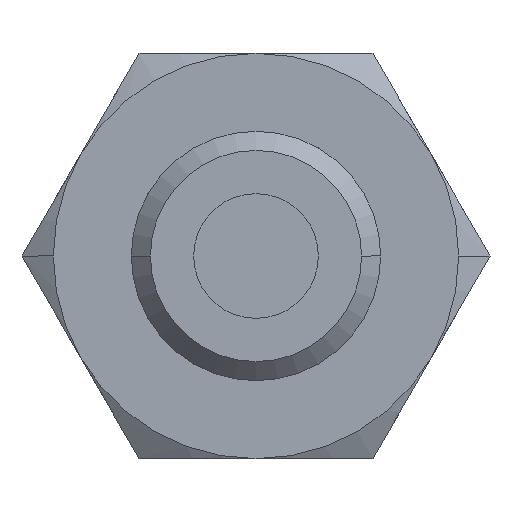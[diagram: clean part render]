
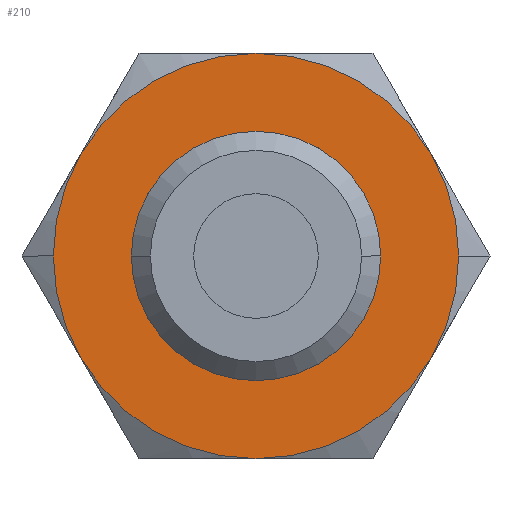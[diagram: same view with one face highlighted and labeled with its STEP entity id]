
A CAD part, left-side view. The second image highlights one B-rep face of the part: STEP entity #210.
In plain terms, the highlighted planar face has unit normal (-1, 0, 0).
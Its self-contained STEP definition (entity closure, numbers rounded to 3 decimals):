
#210 = ADVANCED_FACE( '', ( #322, #323 ), #324, .T. );
#322 = FACE_BOUND( '', #469, .T. );
#323 = FACE_OUTER_BOUND( '', #470, .T. );
#324 = PLANE( '', #471 );
#469 = EDGE_LOOP( '', ( #802, #803 ) );
#470 = EDGE_LOOP( '', ( #804, #805, #806, #807, #808, #809, #810, #811 ) );
#471 = AXIS2_PLACEMENT_3D( '', #812, #813, #814 );
#802 = ORIENTED_EDGE( '', *, *, #1075, .T. );
#803 = ORIENTED_EDGE( '', *, *, #1126, .T. );
#804 = ORIENTED_EDGE( '', *, *, #1118, .F. );
#805 = ORIENTED_EDGE( '', *, *, #1119, .F. );
#806 = ORIENTED_EDGE( '', *, *, #1114, .F. );
#807 = ORIENTED_EDGE( '', *, *, #1115, .F. );
#808 = ORIENTED_EDGE( '', *, *, #1087, .F. );
#809 = ORIENTED_EDGE( '', *, *, #1116, .F. );
#810 = ORIENTED_EDGE( '', *, *, #1117, .F. );
#811 = ORIENTED_EDGE( '', *, *, #1083, .F. );
#812 = CARTESIAN_POINT( '', ( 10., -3.25, 0. ) );
#813 = DIRECTION( '', ( -1., 0., 0. ) );
#814 = DIRECTION( '', ( 0., 1., 0. ) );
#1075 = EDGE_CURVE( '', #1239, #1241, #1243, .T. );
#1083 = EDGE_CURVE( '', #1256, #1259, #1260, .T. );
#1087 = EDGE_CURVE( '', #1265, #1263, #1267, .T. );
#1114 = EDGE_CURVE( '', #1301, #1292, #1310, .T. );
#1115 = EDGE_CURVE( '', #1263, #1301, #1311, .T. );
#1116 = EDGE_CURVE( '', #1269, #1265, #1312, .T. );
#1117 = EDGE_CURVE( '', #1259, #1269, #1313, .T. );
#1118 = EDGE_CURVE( '', #1280, #1256, #1314, .T. );
#1119 = EDGE_CURVE( '', #1292, #1280, #1315, .T. );
#1126 = EDGE_CURVE( '', #1241, #1239, #1322, .T. );
#1239 = VERTEX_POINT( '', #1483 );
#1241 = VERTEX_POINT( '', #1486 );
#1243 = CIRCLE( '', #1489, 4. );
#1256 = VERTEX_POINT( '', #1522 );
#1259 = VERTEX_POINT( '', #1526 );
#1260 = CIRCLE( '', #1527, 6.5 );
#1263 = VERTEX_POINT( '', #1539 );
#1265 = VERTEX_POINT( '', #1542 );
#1267 = CIRCLE( '', #1553, 6.5 );
#1269 = VERTEX_POINT( '', #1555 );
#1280 = VERTEX_POINT( '', #1604 );
#1292 = VERTEX_POINT( '', #1672 );
#1301 = VERTEX_POINT( '', #1718 );
#1310 = CIRCLE( '', #1782, 6.5 );
#1311 = CIRCLE( '', #1783, 6.5 );
#1312 = CIRCLE( '', #1784, 6.5 );
#1313 = CIRCLE( '', #1785, 6.5 );
#1314 = CIRCLE( '', #1786, 6.5 );
#1315 = CIRCLE( '', #1787, 6.5 );
#1322 = CIRCLE( '', #1794, 4. );
#1483 = CARTESIAN_POINT( '', ( 10., -4., 0. ) );
#1486 = CARTESIAN_POINT( '', ( 10., 4., 0. ) );
#1489 = AXIS2_PLACEMENT_3D( '', #2189, #2190, #2191 );
#1522 = CARTESIAN_POINT( '', ( 10., -6.5, 0. ) );
#1526 = CARTESIAN_POINT( '', ( 10., -5.629, -3.25 ) );
#1527 = AXIS2_PLACEMENT_3D( '', #2201, #2202, #2203 );
#1539 = CARTESIAN_POINT( '', ( 10., 6.5, 0. ) );
#1542 = CARTESIAN_POINT( '', ( 10., 5.629, -3.25 ) );
#1553 = AXIS2_PLACEMENT_3D( '', #2205, #2206, #2207 );
#1555 = CARTESIAN_POINT( '', ( 10., 0., -6.5 ) );
#1604 = CARTESIAN_POINT( '', ( 10., -5.629, 3.25 ) );
#1672 = CARTESIAN_POINT( '', ( 10., 0., 6.5 ) );
#1718 = CARTESIAN_POINT( '', ( 10., 5.629, 3.25 ) );
#1782 = AXIS2_PLACEMENT_3D( '', #2214, #2215, #2216 );
#1783 = AXIS2_PLACEMENT_3D( '', #2217, #2218, #2219 );
#1784 = AXIS2_PLACEMENT_3D( '', #2220, #2221, #2222 );
#1785 = AXIS2_PLACEMENT_3D( '', #2223, #2224, #2225 );
#1786 = AXIS2_PLACEMENT_3D( '', #2226, #2227, #2228 );
#1787 = AXIS2_PLACEMENT_3D( '', #2229, #2230, #2231 );
#1794 = AXIS2_PLACEMENT_3D( '', #2250, #2251, #2252 );
#2189 = CARTESIAN_POINT( '', ( 10., 0., 0. ) );
#2190 = DIRECTION( '', ( 1., 0., 0. ) );
#2191 = DIRECTION( '', ( 0., -1., 0. ) );
#2201 = CARTESIAN_POINT( '', ( 10., 0., 0. ) );
#2202 = DIRECTION( '', ( 1., 0., 0. ) );
#2203 = DIRECTION( '', ( 0., -1., 0. ) );
#2205 = CARTESIAN_POINT( '', ( 10., 0., 0. ) );
#2206 = DIRECTION( '', ( 1., 0., 0. ) );
#2207 = DIRECTION( '', ( 0., -1., 0. ) );
#2214 = CARTESIAN_POINT( '', ( 10., 0., 0. ) );
#2215 = DIRECTION( '', ( 1., 0., 0. ) );
#2216 = DIRECTION( '', ( 0., -1., 0. ) );
#2217 = CARTESIAN_POINT( '', ( 10., 0., 0. ) );
#2218 = DIRECTION( '', ( 1., 0., 0. ) );
#2219 = DIRECTION( '', ( 0., -1., 0. ) );
#2220 = CARTESIAN_POINT( '', ( 10., 0., 0. ) );
#2221 = DIRECTION( '', ( 1., 0., 0. ) );
#2222 = DIRECTION( '', ( 0., -1., 0. ) );
#2223 = CARTESIAN_POINT( '', ( 10., 0., 0. ) );
#2224 = DIRECTION( '', ( 1., 0., 0. ) );
#2225 = DIRECTION( '', ( 0., -1., 0. ) );
#2226 = CARTESIAN_POINT( '', ( 10., 0., 0. ) );
#2227 = DIRECTION( '', ( 1., 0., 0. ) );
#2228 = DIRECTION( '', ( 0., -1., 0. ) );
#2229 = CARTESIAN_POINT( '', ( 10., 0., 0. ) );
#2230 = DIRECTION( '', ( 1., 0., 0. ) );
#2231 = DIRECTION( '', ( 0., -1., 0. ) );
#2250 = CARTESIAN_POINT( '', ( 10., 0., 0. ) );
#2251 = DIRECTION( '', ( 1., 0., 0. ) );
#2252 = DIRECTION( '', ( 0., -1., 0. ) );
